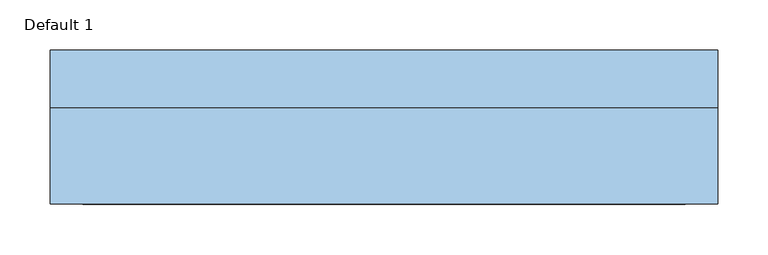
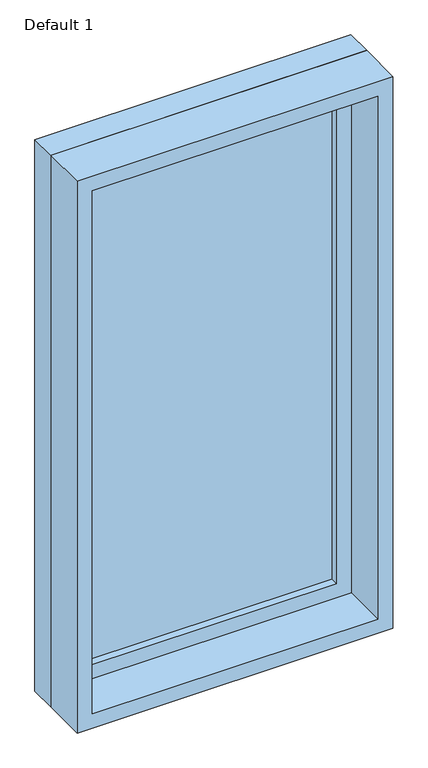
"""IFC4 building model written with IfcOpenShell, lengths in millimetres: window geometry, Planitar-Fixed : Default 1."""

from ifc_helpers import new_model, si_unit, frame, origin, place, context, project, spatial, polyline, outline, extrude, source, transform, mapped, element, save


def default_1_f9d25cd8(model_context):
    return source(origin(), model_context, "Body", "SweptSolid", [
        extrude(outline(polyline([(2114.6, -311.2), (933.4, -311.2), (933.4, 311.2), (2114.6, 311.2), (2114.6, -311.2)]), holes=[polyline([(2070.6, -267.2), (2070.6, 267.2), (977.4, 267.2), (977.4, -267.2), (2070.6, -267.2)])]), frame((0.0, 32.5, 0.0), z_axis=(0.0, 1.0, 0.0), x_axis=(0.0, 0.0, 1.0)), (0.0, 0.0, 1.0), 44.0),
        extrude(outline(polyline([(2133.6, -330.2), (914.4, -330.2), (914.4, 330.2), (2133.6, 330.2), (2133.6, -330.2)]), holes=[polyline([(2114.6, -311.2), (2114.6, 311.2), (933.4, 311.2), (933.4, -311.2), (2114.6, -311.2)])]), frame((0.0, 32.5, 0.0), z_axis=(0.0, 1.0, 0.0), x_axis=(0.0, 0.0, 1.0)), (0.0, 0.0, 1.0), 56.7),
        extrude(outline(polyline([(2133.6, -330.2), (914.4, -330.2), (914.4, 330.2), (2133.6, 330.2), (2133.6, -330.2)]), holes=[polyline([(2101.6, -298.2), (2101.6, 298.2), (946.4, 298.2), (946.4, -298.2), (2101.6, -298.2)])]), frame((0.0, -63.2, 0.0), z_axis=(0.0, 1.0, 0.0), x_axis=(0.0, 0.0, 1.0)), (0.0, 0.0, 1.0), 95.7),
        extrude(outline(polyline([(-267.2, 60.5), (267.2, 60.5), (267.2, 48.5), (-267.2, 48.5), (-267.2, 60.5)])), frame((0.0, 0.0, 977.4), z_axis=(0.0, 0.0, 1.0), x_axis=(1.0, 0.0, 0.0)), (0.0, 0.0, 1.0), 1093.2),
    ])


if __name__ == "__main__":
    model = new_model("IFC4")
    model_context = context("Model", 3, world=origin())
    ifc_project = project(units=[si_unit("LENGTHUNIT", "METRE", prefix="MILLI")], contexts=[model_context])
    site = spatial("IfcSite", under=ifc_project)
    building = spatial("IfcBuilding", under=site)
    placement = place(None, origin())
    default_1_shape = default_1_f9d25cd8(model_context)
    element("IfcWindow", 1, ObjectType="Planitar-Fixed : Default 1", at=placement, inside=building, context=model_context, shape_type="MappedRepresentation", body=[
        mapped(default_1_shape, transform((0.0, 0.0, 0.0), x_axis=(1.0, 0.0, 0.0), y_axis=(0.0, 1.0, 0.0), z_axis=(0.0, 0.0, 1.0))),
    ])
    save(model, "model.ifc")
